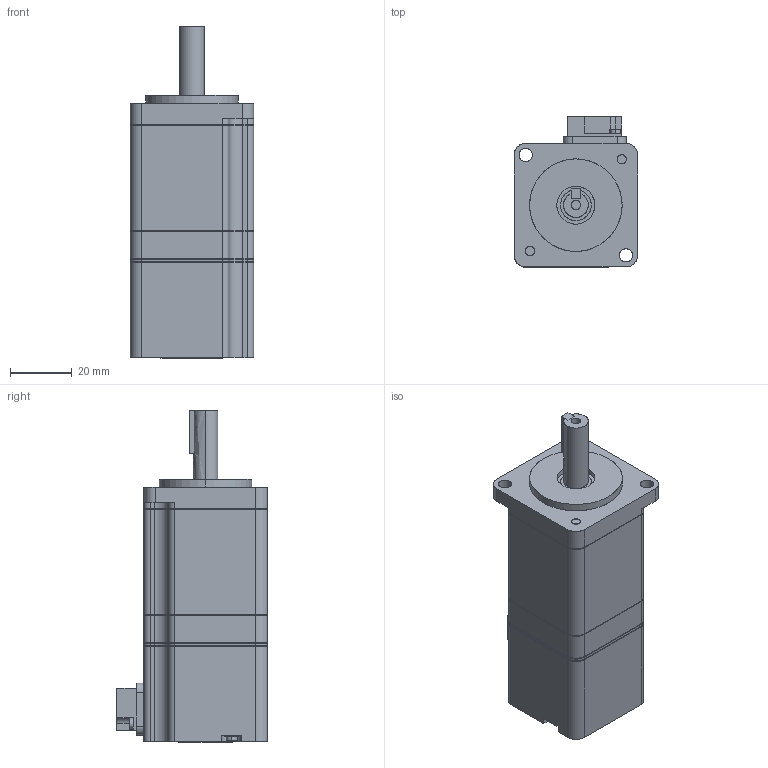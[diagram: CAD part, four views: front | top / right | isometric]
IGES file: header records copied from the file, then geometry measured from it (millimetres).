
Start section: SolidWorks IGES file using analytic representation for surfaces
Global section: file name: C:\YASKAWA\sgmjv_01a_a61.IGS; native system: SolidWorks 2006 by SolidWorks Corporation; preprocessor: SolidWorks 2006 by SolidWorks Corporation; author: yamanouchi; date: 080610.210154; units: millimetre
Bounding box: 40.1 x 48.8 x 107.6 mm (x, y, z)
Surface area: 18335.8 mm2 (no closed solid volume)
Topology: 0 solids, 0 shells, 297 faces, 4097 edges, 4097 vertices
Faces by surface type: bspline 170, revolution 127
